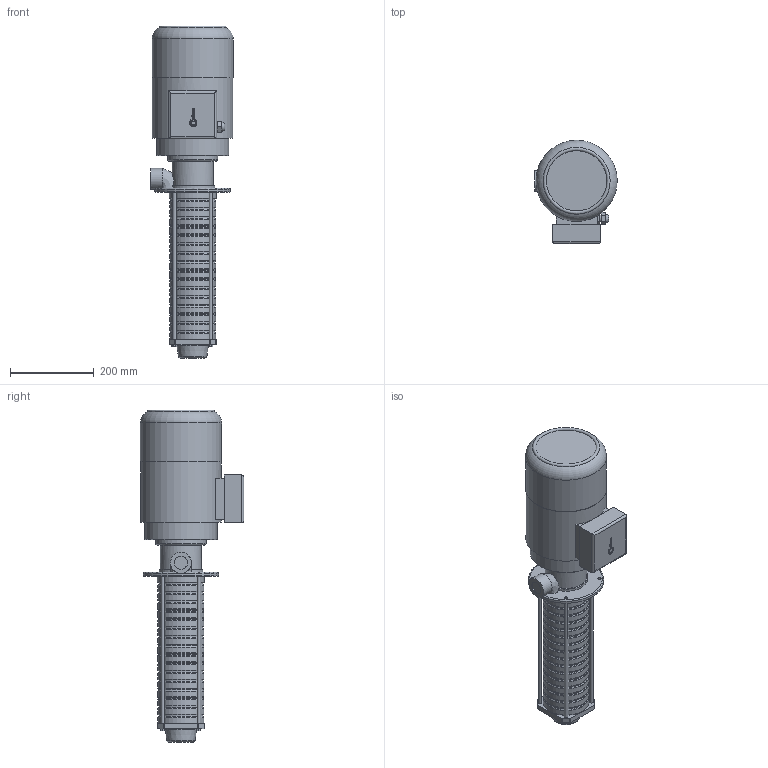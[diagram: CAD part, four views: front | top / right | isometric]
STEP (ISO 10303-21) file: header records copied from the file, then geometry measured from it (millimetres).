
FILE_DESCRIPTION(/* description */ ('Unknown'),/* implementation_level */ '2;1');
FILE_NAME(/* name */ 'hdb15',/* time_stamp */ '2025-06-17T15:00:12+03:00',/* author */ ('Unknown'),/* organization */ ('Unknown'),/* preprocessor_version */ 'ST-DEVELOPER v16.7',/* originating_system */ 'DEX',/* authorisation */ $);
FILE_SCHEMA (('AUTOMOTIVE_DESIGN {1 0 10303 214 3 1 1}'));
Length unit declared in the file: millimetre
Products named in the file (1): hdb15
Bounding box: 197 x 247 x 793 mm (x, y, z)
Volume: 13997654.2 mm3; surface area: 537398.5 mm2
Topology: 1 solids, 1 shells, 312 faces, 729 edges, 463 vertices
Faces by surface type: plane 113, cylinder 72, bspline 66, torus 41, cone 20
Full cylindrical faces by diameter (mm): 7.5 x4, 8 x4, 17 x1, 21.5 x1, 31 x1, 50 x1, 98.181 x1, 106.9 x16, 110 x16, 112 x1, 120 x1, 172.431 x1, 180 x1, 192.353 x1, 194 x1
Entity records: 10862 total; most frequent: CARTESIAN_POINT 4502, ORIENTED_EDGE 1208, DIRECTION 1153, EDGE_CURVE 604, EDGE_LOOP 486, FACE_BOUND 486, VERTEX_POINT 450, AXIS2_PLACEMENT_3D 442
